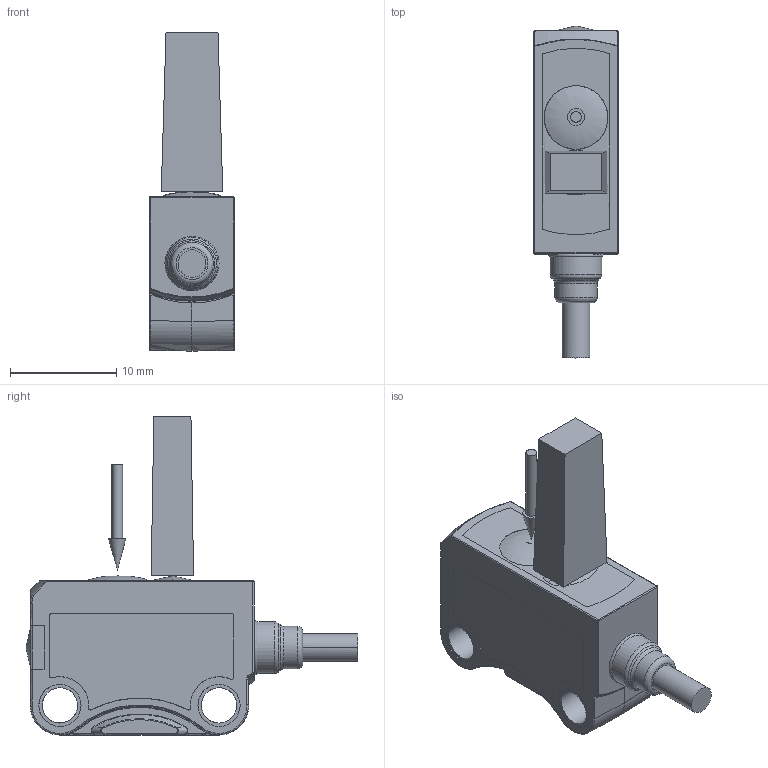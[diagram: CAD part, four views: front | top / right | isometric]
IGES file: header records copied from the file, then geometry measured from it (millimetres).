
Global section: file name: 600-11008_FT 10-RF1-PS-K4; native system: Autodesk Inventor 2023; preprocessor: unknown; author: Sandra.Stahl; date: 20231012.092454; units: millimetre
Bounding box: 8 x 31.3 x 30 mm (x, y, z)
Volume: 2552 mm3; surface area: 1747.5 mm2
Topology: 3 solids, 3 shells, 287 faces, 724 edges, 459 vertices
Faces by surface type: bspline 287
